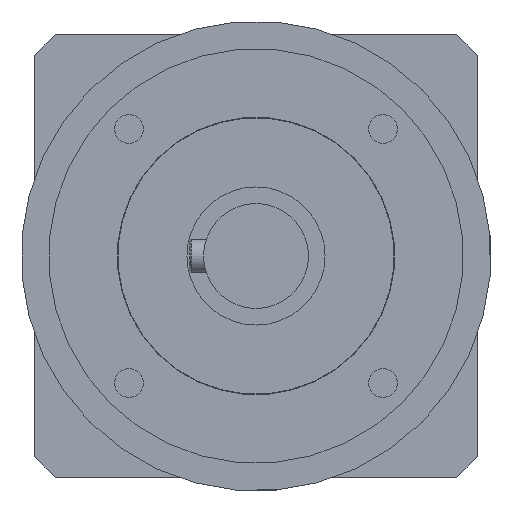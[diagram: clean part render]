
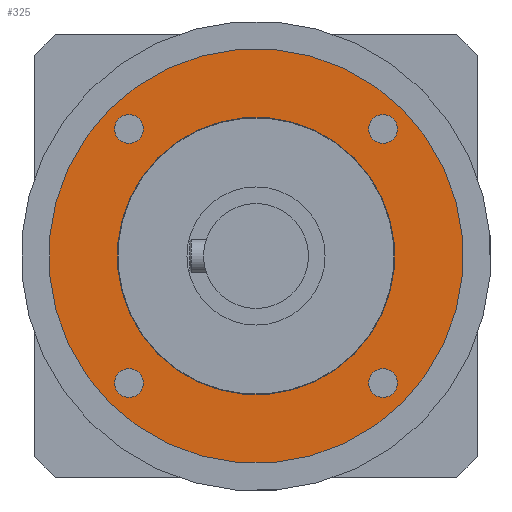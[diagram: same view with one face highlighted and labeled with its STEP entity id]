
A CAD part, left-side view. The second image highlights one B-rep face of the part: STEP entity #325.
In plain terms, the highlighted planar face has unit normal (-1, 0, 0).
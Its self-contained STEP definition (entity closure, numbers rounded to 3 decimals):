
#325=ADVANCED_FACE('',(#535,#536,#537,#538,#459,#539),#411,.T.);
#411=PLANE('',#1485);
#459=FACE_OUTER_BOUND('',#665,.T.);
#535=FACE_BOUND('',#661,.T.);
#536=FACE_BOUND('',#662,.T.);
#537=FACE_BOUND('',#663,.T.);
#538=FACE_BOUND('',#664,.T.);
#539=FACE_BOUND('',#666,.T.);
#661=EDGE_LOOP('',(#873));
#662=EDGE_LOOP('',(#874));
#663=EDGE_LOOP('',(#875));
#664=EDGE_LOOP('',(#876));
#665=EDGE_LOOP('',(#877));
#666=EDGE_LOOP('',(#878));
#873=ORIENTED_EDGE('',*,*,#1240,.T.);
#874=ORIENTED_EDGE('',*,*,#1241,.T.);
#875=ORIENTED_EDGE('',*,*,#1242,.T.);
#876=ORIENTED_EDGE('',*,*,#1243,.T.);
#877=ORIENTED_EDGE('',*,*,#1244,.T.);
#878=ORIENTED_EDGE('',*,*,#1245,.T.);
#1106=VERTEX_POINT('',#2200);
#1107=VERTEX_POINT('',#2202);
#1108=VERTEX_POINT('',#2204);
#1109=VERTEX_POINT('',#2206);
#1110=VERTEX_POINT('',#2208);
#1111=VERTEX_POINT('',#2210);
#1240=EDGE_CURVE('',#1106,#1106,#1362,.T.);
#1241=EDGE_CURVE('',#1107,#1107,#1363,.T.);
#1242=EDGE_CURVE('',#1108,#1108,#1364,.T.);
#1243=EDGE_CURVE('',#1109,#1109,#1365,.T.);
#1244=EDGE_CURVE('',#1110,#1110,#1366,.T.);
#1245=EDGE_CURVE('',#1111,#1111,#1367,.T.);
#1362=CIRCLE('',#1479,2.594);
#1363=CIRCLE('',#1480,2.594);
#1364=CIRCLE('',#1481,2.594);
#1365=CIRCLE('',#1482,2.594);
#1366=CIRCLE('',#1483,37.5);
#1367=CIRCLE('',#1484,25.1);
#1479=AXIS2_PLACEMENT_3D('',#2199,#1745,#1746);
#1480=AXIS2_PLACEMENT_3D('',#2201,#1747,#1748);
#1481=AXIS2_PLACEMENT_3D('',#2203,#1749,#1750);
#1482=AXIS2_PLACEMENT_3D('',#2205,#1751,#1752);
#1483=AXIS2_PLACEMENT_3D('',#2207,#1753,#1754);
#1484=AXIS2_PLACEMENT_3D('',#2209,#1755,#1756);
#1485=AXIS2_PLACEMENT_3D('',#2211,#1757,#1758);
#1745=DIRECTION('',(1.,0.,0.));
#1746=DIRECTION('',(0.,0.707,-0.707));
#1747=DIRECTION('',(1.,0.,0.));
#1748=DIRECTION('',(0.,0.707,0.707));
#1749=DIRECTION('',(1.,0.,0.));
#1750=DIRECTION('',(0.,-0.707,0.707));
#1751=DIRECTION('',(1.,0.,0.));
#1752=DIRECTION('',(0.,-0.707,-0.707));
#1753=DIRECTION('',(-1.,0.,0.));
#1754=DIRECTION('',(0.,0.707,0.707));
#1755=DIRECTION('',(1.,0.,0.));
#1756=DIRECTION('',(0.,-0.707,-0.707));
#1757=DIRECTION('',(-1.,0.,0.));
#1758=DIRECTION('',(0.,0.707,0.707));
#2199=CARTESIAN_POINT('',(-83.5,-22.981,-22.981));
#2200=CARTESIAN_POINT('',(-83.5,-21.147,-24.815));
#2201=CARTESIAN_POINT('',(-83.5,22.981,-22.981));
#2202=CARTESIAN_POINT('',(-83.5,24.815,-21.147));
#2203=CARTESIAN_POINT('',(-83.5,22.981,22.981));
#2204=CARTESIAN_POINT('',(-83.5,21.147,24.815));
#2205=CARTESIAN_POINT('',(-83.5,-22.981,22.981));
#2206=CARTESIAN_POINT('',(-83.5,-24.815,21.147));
#2207=CARTESIAN_POINT('',(-83.5,0.,0.));
#2208=CARTESIAN_POINT('',(-83.5,26.517,26.517));
#2209=CARTESIAN_POINT('',(-83.5,0.,0.));
#2210=CARTESIAN_POINT('',(-83.5,-17.748,-17.748));
#2211=CARTESIAN_POINT('',(-83.5,0.,0.));
